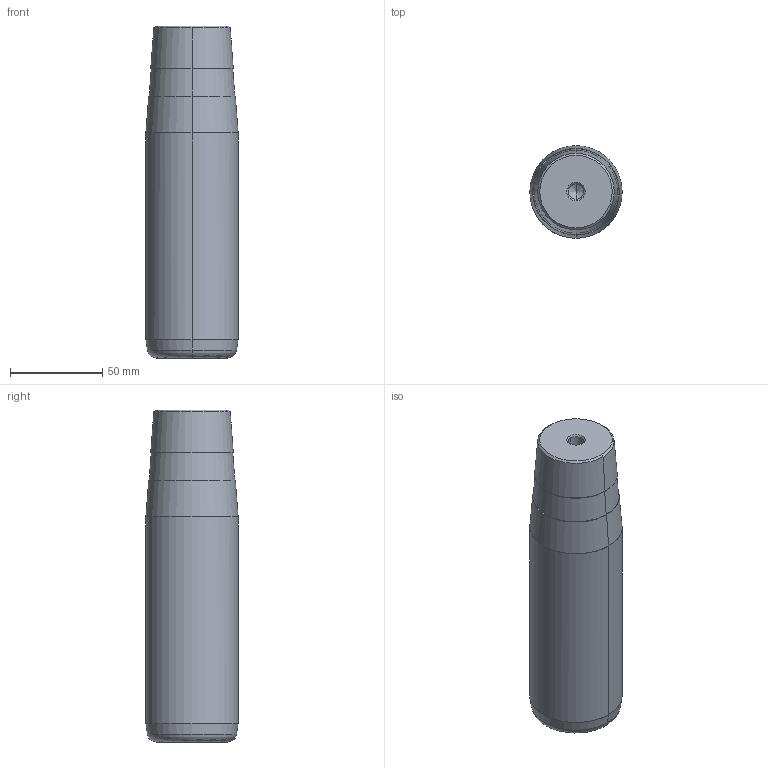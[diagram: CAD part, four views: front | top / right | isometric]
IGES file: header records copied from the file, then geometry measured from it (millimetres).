
Start section: START RECORD GO HERE.
Global section: file name: 722-50x140x180.igs; native system: DASSAULT SYSTEMES CATIA V5 R20 - www.3ds.com; preprocessor: CATIA Version 5 Release 20 ; author: Utente; organization: NB04-ASUS; date: 20210108.155806; units: millimetre
Bounding box: 50 x 50 x 180 mm (x, y, z)
Surface area: 31673.2 mm2 (no closed solid volume)
Topology: 0 solids, 0 shells, 32 faces, 192 edges, 188 vertices
Faces by surface type: revolution 30, plane 2
